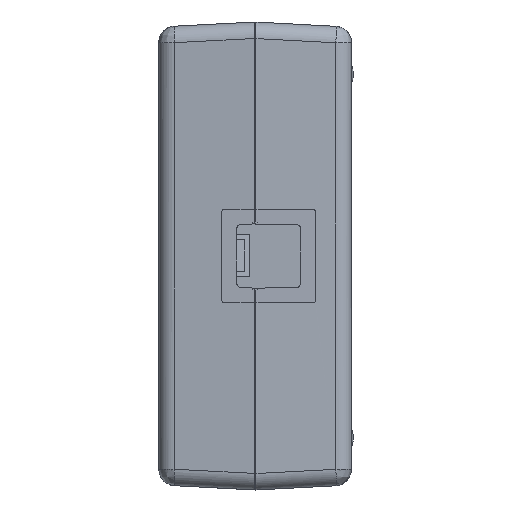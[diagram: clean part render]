
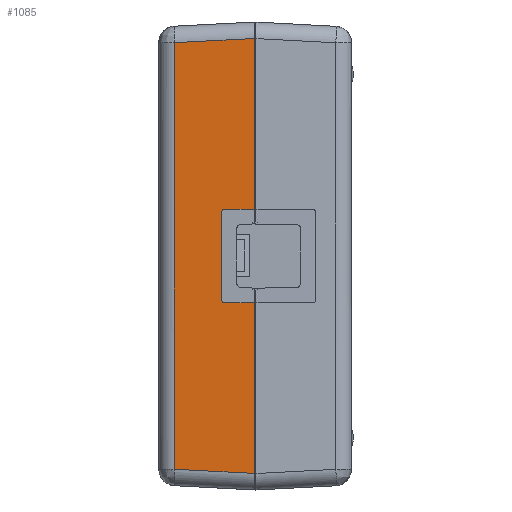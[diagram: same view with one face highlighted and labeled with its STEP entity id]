
A CAD part, left-side view. The second image highlights one B-rep face of the part: STEP entity #1085.
In plain terms, the highlighted planar face has unit normal (-0.999, 0.052, 0).
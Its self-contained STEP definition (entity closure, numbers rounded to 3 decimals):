
#466 = VECTOR ( 'NONE', #57145, 1000. ) ;
#497 = VERTEX_POINT ( 'NONE', #81299 ) ;
#618 = CARTESIAN_POINT ( 'NONE',  ( -91.449, 5.742, -8.365 ) ) ;
#1085 = ADVANCED_FACE ( 'NONE', ( #69780 ), #37463, .T. ) ;
#1506 = EDGE_CURVE ( 'NONE', #21944, #33917, #63041, .T. ) ;
#3531 = CARTESIAN_POINT ( 'NONE',  ( -91.75, 0., -43.722 ) ) ;
#4596 = DIRECTION ( 'NONE',  ( 0.052, 0.999, 0. ) ) ;
#4713 = AXIS2_PLACEMENT_3D ( 'NONE', #3531, #29920, #85908 ) ;
#7645 = CARTESIAN_POINT ( 'NONE',  ( -91.451, 5.703, -8.398 ) ) ;
#8999 = VECTOR ( 'NONE', #85718, 1000. ) ;
#9233 = CARTESIAN_POINT ( 'NONE',  ( -91.441, 5.9, -8. ) ) ;
#12398 = CARTESIAN_POINT ( 'NONE',  ( -91.455, 5.622, 8.449 ) ) ;
#12971 = DIRECTION ( 'NONE',  ( 0., 0., 1. ) ) ;
#13246 = EDGE_CURVE ( 'NONE', #39840, #497, #83887, .T. ) ;
#16250 = CARTESIAN_POINT ( 'NONE',  ( -91.453, 5.664, -8.427 ) ) ;
#16380 = VERTEX_POINT ( 'NONE', #73003 ) ;
#16493 = CARTESIAN_POINT ( 'NONE',  ( -91.75, 0., -43.722 ) ) ;
#17185 = CARTESIAN_POINT ( 'NONE',  ( -91.75, 0., -8.5 ) ) ;
#18459 = ORIENTED_EDGE ( 'NONE', *, *, #91896, .T. ) ;
#20049 = CARTESIAN_POINT ( 'NONE',  ( -91.75, 0., 8.5 ) ) ;
#21021 = CARTESIAN_POINT ( 'NONE',  ( -91.467, 5.4, 8.5 ) ) ;
#21189 = ORIENTED_EDGE ( 'NONE', *, *, #25957, .T. ) ;
#21584 = CARTESIAN_POINT ( 'NONE',  ( -90.99, 14.507, -42.644 ) ) ;
#21944 = VERTEX_POINT ( 'NONE', #89302 ) ;
#24816 = CARTESIAN_POINT ( 'NONE',  ( -91.446, 5.797, 8.304 ) ) ;
#25110 = VERTEX_POINT ( 'NONE', #32610 ) ;
#25910 = CARTESIAN_POINT ( 'NONE',  ( -91.46, 5.53, -8.484 ) ) ;
#25957 = EDGE_CURVE ( 'NONE', #84936, #103052, #42013, .T. ) ;
#26410 = CARTESIAN_POINT ( 'NONE',  ( -91.441, 5.9, 8. ) ) ;
#28566 = CARTESIAN_POINT ( 'NONE',  ( -91.451, 5.707, 8.396 ) ) ;
#29920 = DIRECTION ( 'NONE',  ( -0.999, 0.052, 0. ) ) ;
#31281 = VECTOR ( 'NONE', #4596, 1000. ) ;
#31680 = EDGE_CURVE ( 'NONE', #99627, #33917, #39584, .T. ) ;
#31700 = VECTOR ( 'NONE', #88270, 1000. ) ;
#31883 = CARTESIAN_POINT ( 'NONE',  ( -91.444, 5.832, -8.254 ) ) ;
#32610 = CARTESIAN_POINT ( 'NONE',  ( -91.75, 0., -39.504 ) ) ;
#32763 = DIRECTION ( 'NONE',  ( -0.052, -0.997, -0.052 ) ) ;
#32835 = EDGE_CURVE ( 'NONE', #33945, #39840, #71892, .T. ) ;
#32884 = CARTESIAN_POINT ( 'NONE',  ( -91.441, 5.9, 8.033 ) ) ;
#33917 = VERTEX_POINT ( 'NONE', #99547 ) ;
#33945 = VERTEX_POINT ( 'NONE', #17185 ) ;
#36409 = EDGE_CURVE ( 'NONE', #16380, #99627, #83729, .T. ) ;
#37462 = EDGE_CURVE ( 'NONE', #21944, #25110, #58065, .T. ) ;
#37463 = PLANE ( 'NONE',  #4713 ) ;
#39584 = LINE ( 'NONE', #72955, #81249 ) ;
#39840 = VERTEX_POINT ( 'NONE', #58361 ) ;
#39978 = CARTESIAN_POINT ( 'NONE',  ( -91.447, 5.776, -8.332 ) ) ;
#40108 = CARTESIAN_POINT ( 'NONE',  ( -91.441, 5.9, 8. ) ) ;
#41396 = ORIENTED_EDGE ( 'NONE', *, *, #65159, .T. ) ;
#42013 = B_SPLINE_CURVE_WITH_KNOTS ( 'NONE', 3,
 ( #26410, #32884, #59244, #92080, #89967, #65736, #98558, #24816, #45792, #53860, #71614, #28566, #78084, #12398, #103350, #96350, #21021 ),
 .UNSPECIFIED., .F., .F.,
 ( 4, 2, 2, 1, 2, 2, 2, 2, 4 ),
 ( 0., 0.125, 0.25, 0.375, 0.438, 0.5, 0.625, 0.75, 1. ),
 .UNSPECIFIED. ) ;
#45743 = CARTESIAN_POINT ( 'NONE',  ( -91.467, 5.4, 8.5 ) ) ;
#45792 = CARTESIAN_POINT ( 'NONE',  ( -91.447, 5.777, 8.329 ) ) ;
#47049 = EDGE_LOOP ( 'NONE', ( #98644, #18459, #21189, #79262, #77280, #59736, #80321, #77715, #41396, #79697 ) ) ;
#48566 = CARTESIAN_POINT ( 'NONE',  ( -91.464, 5.466, -8.497 ) ) ;
#49627 = CARTESIAN_POINT ( 'NONE',  ( -91.444, 5.848, -8.223 ) ) ;
#52829 = CARTESIAN_POINT ( 'NONE',  ( -91.75, 0., 39.504 ) ) ;
#53860 = CARTESIAN_POINT ( 'NONE',  ( -91.448, 5.764, 8.343 ) ) ;
#53909 = VECTOR ( 'NONE', #32763, 1000. ) ;
#57136 = VECTOR ( 'NONE', #12971, 1000. ) ;
#57145 = DIRECTION ( 'NONE',  ( 0., 0., 1. ) ) ;
#57176 = CARTESIAN_POINT ( 'NONE',  ( -91.467, 5.4, -8.5 ) ) ;
#58065 = LINE ( 'NONE', #80702, #53909 ) ;
#58361 = CARTESIAN_POINT ( 'NONE',  ( -91.467, 5.4, -8.5 ) ) ;
#59244 = CARTESIAN_POINT ( 'NONE',  ( -91.441, 5.897, 8.066 ) ) ;
#59736 = ORIENTED_EDGE ( 'NONE', *, *, #31680, .T. ) ;
#63041 = LINE ( 'NONE', #21584, #57136 ) ;
#64165 = LINE ( 'NONE', #72243, #466 ) ;
#65159 = EDGE_CURVE ( 'NONE', #25110, #33945, #67075, .T. ) ;
#65736 = CARTESIAN_POINT ( 'NONE',  ( -91.443, 5.849, 8.222 ) ) ;
#67075 = LINE ( 'NONE', #16493, #31700 ) ;
#68110 = DIRECTION ( 'NONE',  ( 0., 0., 1. ) ) ;
#69590 = LINE ( 'NONE', #20049, #8999 ) ;
#69780 = FACE_OUTER_BOUND ( 'NONE', #47049, .T. ) ;
#70097 = EDGE_CURVE ( 'NONE', #103052, #16380, #69590, .T. ) ;
#70833 = CARTESIAN_POINT ( 'NONE',  ( -91.75, 0., -8.5 ) ) ;
#71614 = CARTESIAN_POINT ( 'NONE',  ( -91.45, 5.732, 8.376 ) ) ;
#71892 = LINE ( 'NONE', #70833, #31281 ) ;
#72243 = CARTESIAN_POINT ( 'NONE',  ( -91.441, 5.9, -43.722 ) ) ;
#72955 = CARTESIAN_POINT ( 'NONE',  ( -91.75, 0., 39.504 ) ) ;
#73003 = CARTESIAN_POINT ( 'NONE',  ( -91.75, 0., 8.5 ) ) ;
#74919 = CARTESIAN_POINT ( 'NONE',  ( -91.458, 5.563, -8.473 ) ) ;
#76120 = VECTOR ( 'NONE', #68110, 1000. ) ;
#77280 = ORIENTED_EDGE ( 'NONE', *, *, #36409, .T. ) ;
#77715 = ORIENTED_EDGE ( 'NONE', *, *, #37462, .T. ) ;
#78084 = CARTESIAN_POINT ( 'NONE',  ( -91.454, 5.654, 8.432 ) ) ;
#79262 = ORIENTED_EDGE ( 'NONE', *, *, #70097, .T. ) ;
#79697 = ORIENTED_EDGE ( 'NONE', *, *, #32835, .T. ) ;
#80321 = ORIENTED_EDGE ( 'NONE', *, *, #1506, .F. ) ;
#80487 = DIRECTION ( 'NONE',  ( 0.052, 0.997, -0.052 ) ) ;
#80702 = CARTESIAN_POINT ( 'NONE',  ( -90.99, 14.507, -38.744 ) ) ;
#80869 = CARTESIAN_POINT ( 'NONE',  ( -91.465, 5.433, -8.5 ) ) ;
#81249 = VECTOR ( 'NONE', #80487, 1000. ) ;
#81299 = CARTESIAN_POINT ( 'NONE',  ( -91.441, 5.9, -8. ) ) ;
#81416 = CARTESIAN_POINT ( 'NONE',  ( -91.45, 5.729, -8.377 ) ) ;
#82990 = CARTESIAN_POINT ( 'NONE',  ( -91.441, 5.887, -8.133 ) ) ;
#83729 = LINE ( 'NONE', #101978, #76120 ) ;
#83887 = B_SPLINE_CURVE_WITH_KNOTS ( 'NONE', 3,
 ( #57176, #80869, #48566, #25910, #74919, #97547, #16250, #7645, #81416, #618, #39978, #105618, #31883, #49627, #82990, #99124, #9233 ),
 .UNSPECIFIED., .F., .F.,
 ( 4, 2, 2, 1, 2, 2, 2, 2, 4 ),
 ( 0., 0.125, 0.25, 0.375, 0.437, 0.5, 0.625, 0.75, 1. ),
 .UNSPECIFIED. ) ;
#84936 = VERTEX_POINT ( 'NONE', #40108 ) ;
#85718 = DIRECTION ( 'NONE',  ( -0.052, -0.999, 0. ) ) ;
#85908 = DIRECTION ( 'NONE',  ( 0., 0., 1. ) ) ;
#88270 = DIRECTION ( 'NONE',  ( 0., 0., 1. ) ) ;
#89302 = CARTESIAN_POINT ( 'NONE',  ( -90.99, 14.507, -38.744 ) ) ;
#89967 = CARTESIAN_POINT ( 'NONE',  ( -91.442, 5.873, 8.164 ) ) ;
#91896 = EDGE_CURVE ( 'NONE', #497, #84936, #64165, .T. ) ;
#92080 = CARTESIAN_POINT ( 'NONE',  ( -91.442, 5.884, 8.13 ) ) ;
#96350 = CARTESIAN_POINT ( 'NONE',  ( -91.463, 5.469, 8.5 ) ) ;
#97547 = CARTESIAN_POINT ( 'NONE',  ( -91.455, 5.622, -8.449 ) ) ;
#98558 = CARTESIAN_POINT ( 'NONE',  ( -91.445, 5.827, 8.264 ) ) ;
#98644 = ORIENTED_EDGE ( 'NONE', *, *, #13246, .T. ) ;
#99124 = CARTESIAN_POINT ( 'NONE',  ( -91.441, 5.9, -8.069 ) ) ;
#99547 = CARTESIAN_POINT ( 'NONE',  ( -90.99, 14.507, 38.744 ) ) ;
#99627 = VERTEX_POINT ( 'NONE', #52829 ) ;
#101978 = CARTESIAN_POINT ( 'NONE',  ( -91.75, 0., -43.722 ) ) ;
#103052 = VERTEX_POINT ( 'NONE', #45743 ) ;
#103350 = CARTESIAN_POINT ( 'NONE',  ( -91.46, 5.533, 8.487 ) ) ;
#105618 = CARTESIAN_POINT ( 'NONE',  ( -91.446, 5.796, -8.308 ) ) ;
